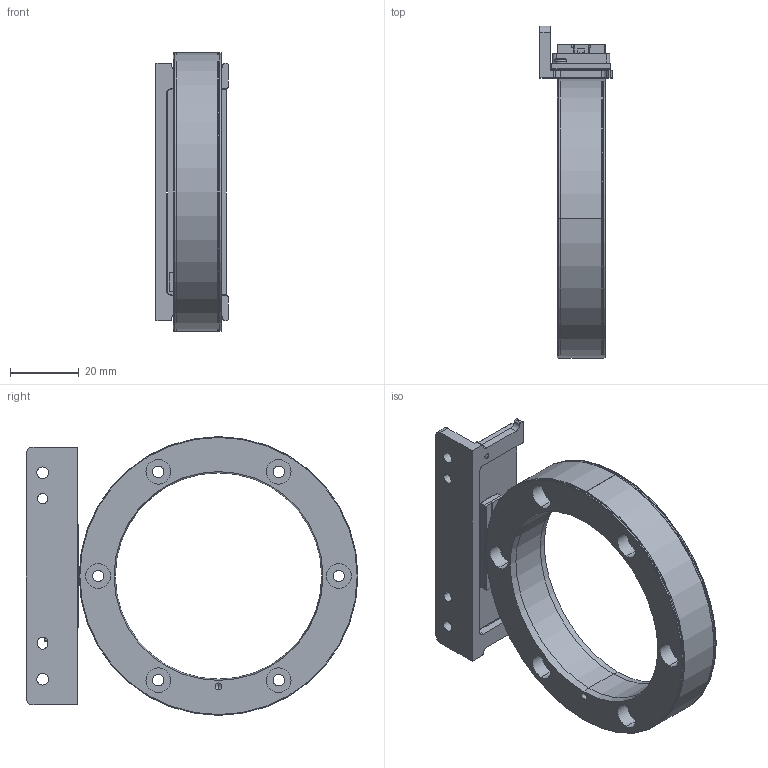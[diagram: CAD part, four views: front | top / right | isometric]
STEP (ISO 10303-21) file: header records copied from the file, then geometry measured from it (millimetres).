
FILE_DESCRIPTION (( 'STEP AP203' ), '1' );
FILE_NAME ('Kotnik+ring.STEP', '2025-07-14T07:51:10', ( '' ), ( '' ), 'SwSTEP 2.0', 'SolidWorks 2024', '' );
FILE_SCHEMA (( 'CONFIG_CONTROL_DESIGN' ));
Length unit declared in the file: millimetre
Products named in the file (1): Kotnik+ring
Bounding box: 21 x 96.47 x 81.05 mm (x, y, z)
Surface area: 34878.6 mm2 (no closed solid volume)
Topology: 0 solids, 92 shells, 1742 faces, 4411 edges, 2906 vertices
Faces by surface type: plane 1314, cylinder 193, bspline 137, torus 58, cone 36, sphere 4
Entity records: 58943 total; most frequent: CARTESIAN_POINT 18317, ORIENTED_EDGE 8668, DIRECTION 7480, EDGE_CURVE 4402, LINE 3168, VECTOR 3168, VERTEX_POINT 2906, AXIS2_PLACEMENT_3D 2156
